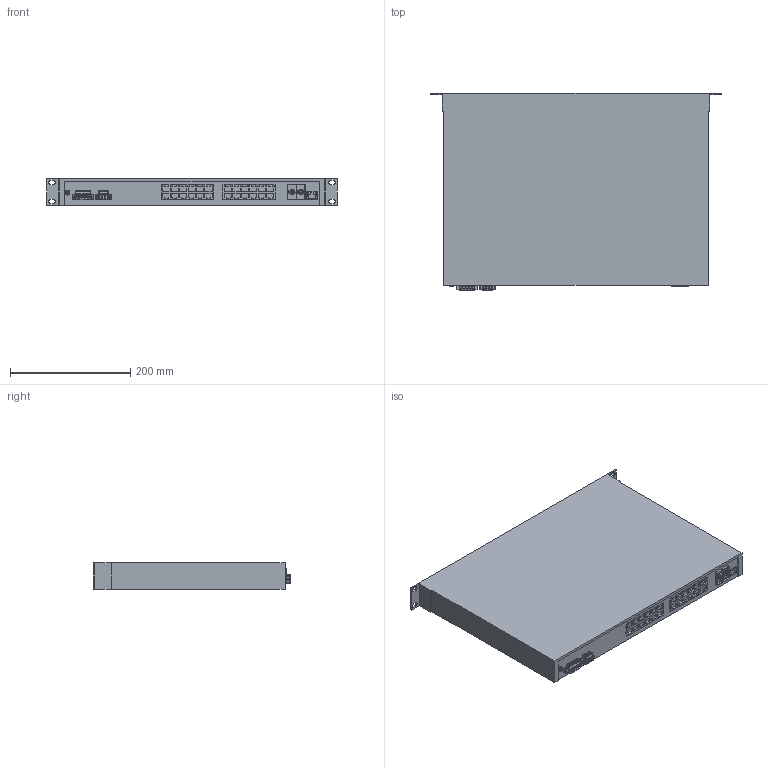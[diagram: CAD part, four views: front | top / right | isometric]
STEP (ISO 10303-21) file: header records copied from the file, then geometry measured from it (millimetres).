
FILE_DESCRIPTION(('TFLEX Exchange Step'),'2;1');
FILE_NAME('70000011_STEZ4824-4G-L2.stp', '2025-08-28T09:16:12+03:00',('YLedovskikh'),('Unknown organisation'),'TFLEX Exchange 2023.2','T-FLEX CAD','Unknown authorisation');
FILE_SCHEMA( ('AUTOMOTIVE_DESIGN { 1 0 10303 214 1 1 1 1 }') );
Length unit declared in the file: millimetre
Products named in the file (1): Тело_1 - Nodes:1
Bounding box: 482.6 x 328.5 x 44 mm (x, y, z)
Volume: 6163424.8 mm3; surface area: 368232.3 mm2
Topology: 1 solids, 17 shells, 2457 faces, 6940 edges, 4614 vertices
Faces by surface type: plane 1656, cylinder 549, bspline 160, sphere 72, extrusion 16, torus 4
Full cylindrical faces by diameter (mm): 1.5 x8, 2.5 x4, 2.6 x4, 3 x68, 3.1 x60, 3.8 x4, 3.821 x8, 3.9 x4, 4 x9, 4.4 x1, 6.8 x1
Entity records: 82011 total; most frequent: CARTESIAN_POINT 17170, ORIENTED_EDGE 13760, DIRECTION 12353, EDGE_CURVE 6880, VECTOR 4911, LINE 4895, VERTEX_POINT 4614, AXIS2_PLACEMENT_3D 3721
